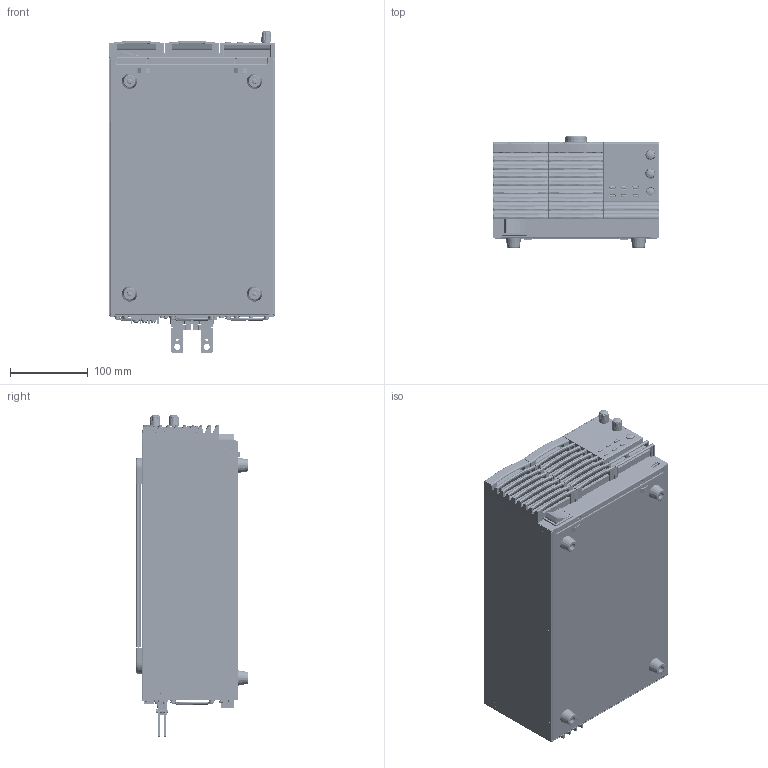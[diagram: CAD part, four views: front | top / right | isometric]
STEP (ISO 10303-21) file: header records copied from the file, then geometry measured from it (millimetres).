
FILE_DESCRIPTION((''),'2;1');
FILE_NAME('ASM0021_ASM','2020-02-20T17:08:21',('shane_wang'),(''),'CREO PARAMETRIC BY PTC INC, 2019080','CREO PARAMETRIC BY PTC INC, 2019080','');
FILE_SCHEMA(('CONFIG_CONTROL_DESIGN'));
Products named in the file (150): PSW_ASM_SKEL_231_1_2_1_1_1_1_1; 63FP-AG107501_391_1_2_1_1_1_1_1; INSERT-CU_10_1_2_1_1_1_1_1; 63FP-AG107501_ASM_46_1_ASM_1__7_ASM; 62SW-080FP201_116_1_2_1_1_1_1_1; PSW-F-PCB_107_1_2_1_1_1_1_1; TACT_SWITCH_TC002_8_1_2_1_1_1_2; DISPLAY_14_1_2_1_1_1_1_1; ENCODE_SW_L25-ALPS_8_1_2_3_1__3; LED-6X4_DIP_5_1_2_1_1_1_1_1; BOARD-IN-CONNECTOR-8PIN_17_1_20; PSW-F-PCB_ASM_ASM_102_1_ASM_1_8_ASM; 63KE-XG2001A1_268_1_2_3_1_1_1_2; 5005-130G0101_32_1_2_3_1_1_1__1; 51SW-30080101_96_1_2_1_1_1_1_1; 51SW-804002A1_122_1_2_1_1_1_1_1; 57RG-30B00101_33_1_2_1_1_1_1_1; 66CN-04650001_15_1_2_1_1_1_1_1; PSW-F1_ASM_ASM_478_1_ASM_1_1__5_ASM; 63FP-AG1076A1_85_1_2_1_1_1_1_1; 57RG-30B00201_33_1_2_1_1_1_1_1; PSW-F2_ASM_ASM_56_1_ASM_1_ASM_4_ASM; 62SW-080FP1A1_249_1_1_2_1_1_1_1; 62SW-080FP1A1_ASM_15_ASM_1_1__5_ASM; POWER_SW_AJ8R1013_28_1_2_1_1__1; PSW-FP3_ASM_ASM_27_ASM_1_1_2__3_ASM; 62SW-080LO1A1_277_1_1_2_1_1_1_1; BSO-M3X55_10_1_2_1_1_1_1_1; FH-M4-15_3_1_2_1_1_1_2_1_1; 62SW-080LO1A1_ASM_80_ASM_1_1__5_ASM; 57IL-28F09001_80_1_1_1_1_1; PSW-MAINPCB3_196_1_1_2_1_1_1_1; USB2_7_1_2_3_1_1_1_1_1; T36-E031-3PIN_16_1_1_2_1_1_1_1; RJ-45_16_1_2_3_1_1_1_1_1; BOARD-SOCKET-30_11_1_2_1_1_1__1; BOARD-SOCKET-10_9_1_2_1_1_1_1_1; BOARD-SOCKET-20_11_1_2_1_1_1__1; BOARD-SOCKET-14_16_1_2_1_1_1__1; 62SW-080ST101-JH-4A_8_1_2_1_1_3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
Assembly tree (329 placements, depth 10):
  ASM0021_ASM
    ASM0017_ASM_1_1_ASM
      ASM0004_ASM_1_1_ASM_1_1_ASM
        PSW-THREE_ASM_ASM_ASM_1_ASM_1_3_ASM
          PSW-THREE_ASM_ASM_700_ASM_1_A_3_ASM
            PSW_ASM_SKEL_231_1_2_1_1_1_1_1
            PSW-F1_ASM_ASM_478_1_ASM_1_1__5_ASM
              63FP-AG107501_ASM_46_1_ASM_1__7_ASM
                63FP-AG107501_391_1_2_1_1_1_1_1
                INSERT-CU_10_1_2_1_1_1_1_1  x2
              62SW-080FP201_116_1_2_1_1_1_1_1
              PSW-F-PCB_ASM_ASM_102_1_ASM_1_8_ASM
                PSW-F-PCB_107_1_2_1_1_1_1_1
                TACT_SWITCH_TC002_8_1_2_1_1_1_2  x7
                DISPLAY_14_1_2_1_1_1_1_1  x8
                ENCODE_SW_L25-ALPS_8_1_2_3_1__3  x2
                LED-6X4_DIP_5_1_2_1_1_1_1_1  x17
                BOARD-IN-CONNECTOR-8PIN_17_1_20
              63KE-XG2001A1_268_1_2_3_1_1_1_2
              5005-130G0101_32_1_2_3_1_1_1__1  x2
              51SW-30080101_96_1_2_1_1_1_1_1
              51SW-804002A1_122_1_2_1_1_1_1_1
              57RG-30B00101_33_1_2_1_1_1_1_1
              66CN-04650001_15_1_2_1_1_1_1_1
            PSW-F2_ASM_ASM_56_1_ASM_1_ASM_4_ASM  x2
              63FP-AG1076A1_85_1_2_1_1_1_1_1
              57RG-30B00201_33_1_2_1_1_1_1_1
            PSW-FP3_ASM_ASM_27_ASM_1_1_2__3_ASM
              62SW-080FP1A1_ASM_15_ASM_1_1__5_ASM
                62SW-080FP1A1_249_1_1_2_1_1_1_1
              POWER_SW_AJ8R1013_28_1_2_1_1__1
            PSW-LO3_ASM_ASM_133_ASM_1_ASM_4_ASM
              62SW-080LO1A1_ASM_80_ASM_1_1__5_ASM
                62SW-080LO1A1_277_1_1_2_1_1_1_1
                BSO-M3X55_10_1_2_1_1_1_1_1  x18
                FH-M4-15_3_1_2_1_1_1_2_1_1
              57IL-28F09001_80_1_1_1_1_1
              PSW-MAINPCB3_ASM_ASM_88_ASM_1_8_ASM
                PSW-MAINPCB3_196_1_1_2_1_1_1_1
                USB2_7_1_2_3_1_1_1_1_1
                T36-E031-3PIN_16_1_1_2_1_1_1_1
                RJ-45_16_1_2_3_1_1_1_1_1
                BOARD-SOCKET-30_11_1_2_1_1_1__1  x3
                BOARD-SOCKET-10_9_1_2_1_1_1_1_1  x9
                BOARD-SOCKET-20_11_1_2_1_1_1__1  x3
                BOARD-SOCKET-14_16_1_2_1_1_1__1  x3
                62SW-080ST101-JH-4A_8_1_2_1_1_3  x2
              BMS-LOCK-3X4_9_1_2_3_4_5_1_1__1  x18
              57FC-10B0100_GL-4L-B_3_1_2_1__3  x4
              BMS-W-3X10_11_1_2_3_1_1_1_1_1  x4
              PSW-PFC-PCB_ASM_ASM_194_ASM_1_3_ASM  x3
                62SW-080HP401_76_1_1_1_1_1_1
                BOX-TYPE-PLUGS-20_12_1_1_1_1__1
                BOX-TYPE-PLUGS-10_14_1_1_2_1__1
                BOX-TYPE-PLUGS-14_13_1_1_1_1__1
                9PSL-JE_4_1_1_1_1_1_1_1
                19PSL-JE_9_1_1_2_1_1_1_1
                PMS-W-3X6_9_1_1_2_3_4_5_6_7_1_3
                BMS-LOCK-3X6_9_1_1_2_3_4_5_6__3
                PMS-W-3X8_9_1_1_2_3_4_5_6_7_8_4
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Bounding box: 212.8 x 144.2 x 413.8 mm (x, y, z)
Volume: 922923 mm3; surface area: 1388680.5 mm2
Topology: 373 solids, 377 shells, 27029 faces, 68168 edges, 43670 vertices
Faces by surface type: plane 19396, cylinder 5038, cone 1183, bspline 692, sphere 366, torus 354
Entity records: 404125 total; most frequent: CARTESIAN_POINT 97379, ORIENTED_EDGE 62935, DIRECTION 62549, EDGE_CURVE 31515, VECTOR 22951, LINE 22951, VERTEX_POINT 20191, AXIS2_PLACEMENT_3D 19799
